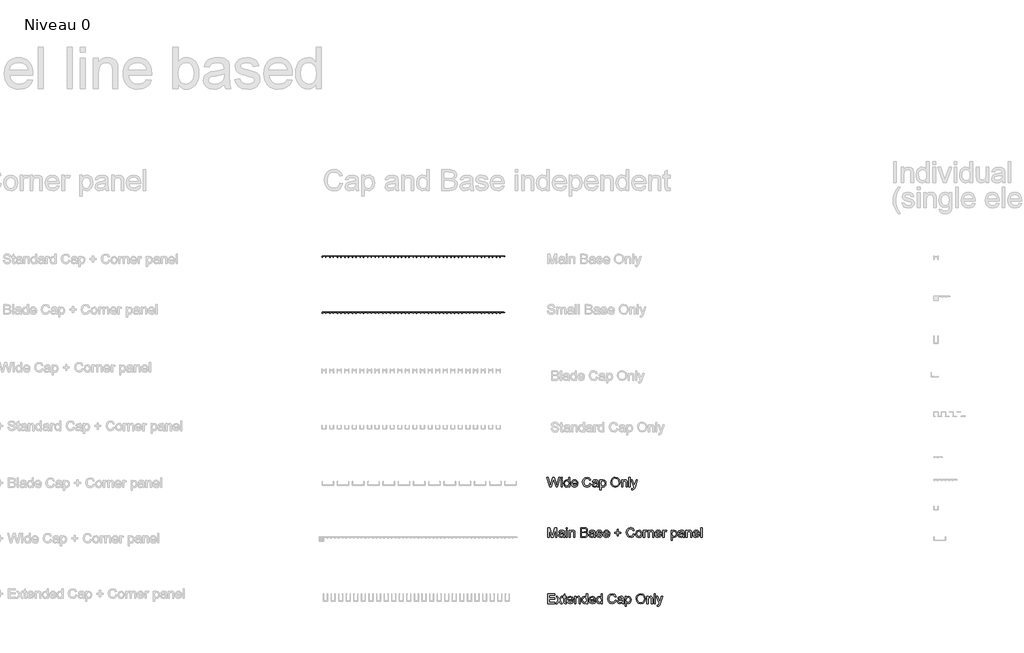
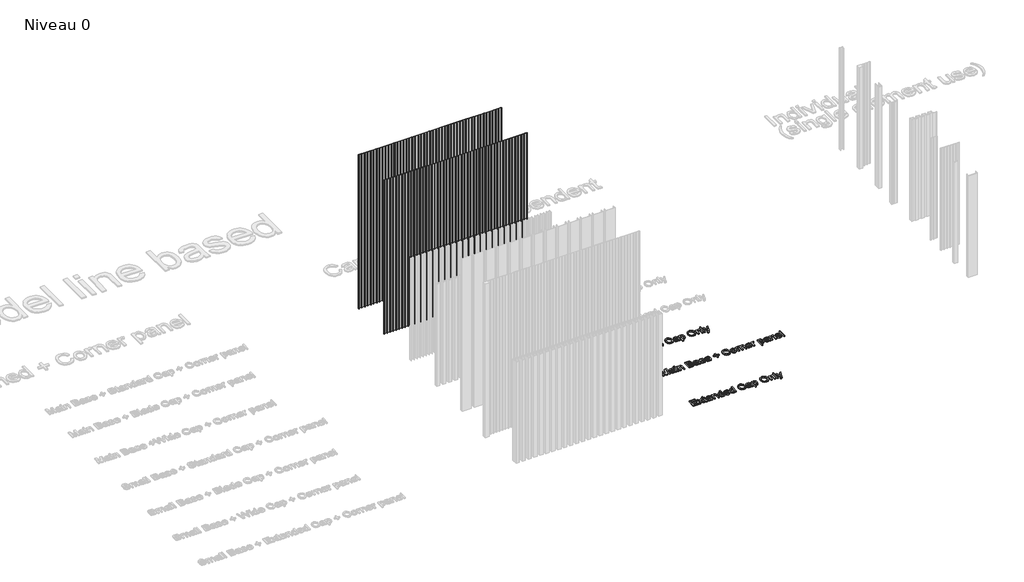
# One storey, part 21 of 25: 5 proxies.
"""IFC4 building model written with IfcOpenShell, lengths in millimetres."""

from ifc_helpers import new_model, si_unit, origin, origin_with_axes, place, context, project, spatial, polyline, outline, extrude, transform, mapped, element, save
from components import a_gen_line_main_base_only_a_gen_line_main_base_only_65072cad, a_gen_line_small_base_only_a_gen_line_small_base_only_1122f738

model = new_model("IFC4")

# Units and contexts
model_context = context("Model", 3, world=origin())
ifc_project = project(units=[si_unit("LENGTHUNIT", "METRE", prefix="MILLI")], contexts=[model_context])

# Site, building, storey
site = spatial("IfcSite", under=ifc_project)
building = spatial("IfcBuilding", under=site)
storey = spatial("IfcBuildingStorey", under=building, Name="Niveau 0", Elevation=0.0)

# Proxies
placement = place(None, origin())
element("IfcBuildingElementProxy", 1, Name="70mm Arial", ObjectType="70mm Arial", at=placement, inside=storey, context=model_context, shape_type="SweptSolid", body=[
    extrude(outline(polyline([(8421.1070911, 2891.0670977), (8401.930629, 2961.3865148), (8410.9952413, 2961.3865148), (8422.1199929, 2915.170726), (8425.5535582, 2900.9042622), (8429.227473, 2913.5226147), (8443.1677481, 2961.3865148), (8456.232464, 2961.3865148), (8466.3614816, 2926.6903376), (8473.8981574, 2900.9042622), (8477.2287158, 2914.7586982), (8488.4564742, 2961.3865148), (8497.5210866, 2961.3865148), (8478.3274566, 2891.0670977), (8468.9366556, 2891.0670977), (8452.07785, 2945.3174293), (8449.7258578, 2952.8884407), (8447.0820125, 2943.7723249), (8431.7168079, 2891.0670977), (8421.1070911, 2891.0670977)])), origin_with_axes(), (0.0, 0.0, 1.0), 10.0),
    extrude(outline(polyline([(8505.2122729, 2952.5965877), (8505.2122729, 2961.3865148), (8514.0022, 2961.3865148), (8514.0022, 2952.5965877), (8505.2122729, 2952.5965877)])), origin_with_axes(), (0.0, 0.0, 1.0), 10.0),
    extrude(outline(polyline([(8505.2122729, 2891.0670977), (8505.2122729, 2942.7079196), (8514.0022, 2942.7079196), (8514.0022, 2891.0670977), (8505.2122729, 2891.0670977)])), origin_with_axes(), (0.0, 0.0, 1.0), 10.0),
    extrude(outline(polyline([(8559.0505766, 2891.0670977), (8559.0505766, 2899.3591579), (8553.2349754, 2892.3160571), (8545.1961406, 2889.9683568), (8534.3117387, 2893.3675864), (8526.6205524, 2902.8528106), (8523.890868, 2916.8360052), (8526.4059546, 2930.8277837), (8533.9426304, 2940.4589344), (8545.161805, 2943.8066605), (8553.2650191, 2941.4117487), (8559.0505766, 2935.1884117), (8559.0505766, 2961.3865148), (8567.8405037, 2961.3865148), (8567.8405037, 2891.0670977), (8559.0505766, 2891.0670977)]), holes=[polyline([(8532.6807952, 2916.8703408), (8536.6465631, 2903.2648384), (8546.0030285, 2898.7582839), (8555.247903, 2903.0588245), (8559.0505766, 2916.2007956), (8555.1792317, 2930.4672594), (8545.6425041, 2935.0167334), (8536.3890457, 2930.6475216), (8532.6807952, 2916.8703408)])]), origin_with_axes(), (0.0, 0.0, 1.0), 10.0),
    extrude(outline(polyline([(8617.1808369, 2906.4494702), (8625.7990858, 2905.3507293), (8617.7387913, 2894.002796), (8602.725527, 2889.9683568), (8592.4119553, 2891.7087452), (8584.4761275, 2896.9299104), (8579.4159107, 2905.2927879), (8577.7291717, 2916.458313), (8579.4330785, 2927.9993843), (8584.5447988, 2936.6305091), (8592.3733277, 2942.0126227), (8602.2276601, 2943.8066605), (8611.7751176, 2942.0169146), (8619.4040704, 2936.6476769), (8624.4063459, 2928.03372), (8626.073771, 2916.5098165), (8626.0222675, 2914.1406564), (8586.5190989, 2914.1406564), (8591.5750238, 2902.7240519), (8602.8972053, 2898.7582839), (8611.5154542, 2900.5952414), (8617.1808369, 2906.4494702)]), holes=[polyline([(8586.5190989, 2922.9305836), (8617.2838439, 2922.9305836), (8613.7644394, 2930.896455), (8602.1933244, 2935.0167334), (8591.3690098, 2931.7290946), (8586.5190989, 2922.9305836)])]), origin_with_axes(), (0.0, 0.0, 1.0), 10.0),
    extrude(outline(polyline([(8712.8743015, 2916.063453), (8721.6642286, 2913.7972999), (8717.6083296, 2903.5545455), (8711.243358, 2896.0715191), (8702.8826265, 2891.4941474), (8692.839448, 2889.9683568), (8674.547129, 2894.5865021), (8663.8172374, 2907.9602389), (8660.1347387, 2926.7590089), (8664.2979366, 2945.8667997), (8676.1351529, 2958.2533865), (8693.0282941, 2962.4852557), (8710.6339001, 2957.0087191), (8720.5654877, 2941.5920109), (8711.7755606, 2939.4975361), (8704.5650735, 2950.3046828), (8692.6849376, 2953.6953286), (8678.9335086, 2949.9355746), (8671.1650671, 2939.8408926), (8668.9246658, 2926.7761767), (8671.577095, 2911.6341538), (8679.8348195, 2901.9600836), (8691.9638889, 2898.7582839), (8705.4148809, 2903.1189119), (8712.8743015, 2916.063453)])), origin_with_axes(), (0.0, 0.0, 1.0), 10.0),
    extrude(outline(polyline([(8765.6138643, 2897.6595431), (8757.0900385, 2891.7023073), (8747.6734857, 2889.9683568), (8734.9092067, 2894.1401386), (8730.4541558, 2904.8013589), (8732.1366028, 2911.7543286), (8736.5573181, 2916.8016695), (8742.7119838, 2919.6858644), (8750.317331, 2921.007787), (8765.5623608, 2924.0293245), (8765.6138643, 2925.9864567), (8763.1932008, 2932.4758951), (8753.476211, 2935.0167334), (8744.5832769, 2933.3257025), (8740.3428238, 2927.3255471), (8731.5528967, 2928.424288), (8735.3555702, 2937.0082013), (8743.0124208, 2942.0383744), (8754.6092876, 2943.8066605), (8765.2619239, 2942.2443883), (8771.279247, 2938.32154), (8773.9745958, 2932.3557203), (8774.4037915, 2924.664534), (8774.4037915, 2913.7286286), (8774.8501549, 2898.457847), (8776.6012732, 2891.0670977), (8767.8113461, 2891.0670977), (8765.6138643, 2897.6595431)]), holes=[polyline([(8765.6138643, 2915.2393973), (8751.4332397, 2912.5440486), (8743.8708121, 2911.119119), (8740.4458308, 2908.8014624), (8739.2440829, 2905.4194006), (8741.8621764, 2900.6639127), (8749.5447788, 2898.7582839), (8758.4377129, 2900.8613427), (8764.1717669, 2905.9516032), (8765.5623608, 2912.7500625), (8765.6138643, 2915.2393973)])]), origin_with_axes(), (0.0, 0.0, 1.0), 10.0),
    extrude(outline(polyline([(8786.4899413, 2871.2897616), (8786.4899413, 2942.7079196), (8795.2798684, 2942.7079196), (8795.2798684, 2934.0896708), (8801.357279, 2941.3774131), (8809.5635, 2943.8066605), (8820.7054194, 2940.4074309), (8827.9845778, 2930.8277837), (8830.439577, 2917.2823687), (8827.666973, 2903.0416566), (8819.6152624, 2893.3418347), (8808.4990948, 2889.9683568), (8800.8508281, 2892.225926), (8795.2798684, 2897.9342283), (8795.2798684, 2871.2897616), (8786.4899413, 2871.2897616)]), holes=[polyline([(8795.2798684, 2916.4754808), (8799.082542, 2903.0845762), (8808.3102487, 2898.7582839), (8817.7268015, 2903.2390866), (8821.6496498, 2917.1278582), (8817.8212245, 2930.5530985), (8808.670773, 2935.0167334), (8799.3400594, 2930.2698294), (8795.2798684, 2916.4754808)])]), origin_with_axes(), (0.0, 0.0, 1.0), 10.0),
    extrude(outline(polyline([(8865.5992855, 2925.2997436), (8867.9426938, 2940.8495024), (8874.9729188, 2952.6137555), (8885.7071022, 2960.0173806), (8899.1623862, 2962.4852557), (8916.6564014, 2957.8499426), (8928.5365372, 2944.9225692), (8932.6224799, 2926.1066315), (8928.3219394, 2907.0331763), (8916.1327826, 2894.2946491), (8899.1108827, 2889.9683568), (8881.4280215, 2894.7495965), (8869.6165569, 2907.7971446), (8865.5992855, 2925.2997436)]), holes=[polyline([(8874.3892127, 2925.2139045), (8876.1467689, 2914.2136197), (8881.4194376, 2905.8314284), (8889.3445355, 2900.5265701), (8899.0593792, 2898.7582839), (8908.9158576, 2900.5437379), (8916.8538314, 2905.9000997), (8922.0878724, 2914.5398084), (8923.8325528, 2926.1753028), (8920.845351, 2940.6821161), (8912.1155113, 2950.287515), (8899.2138897, 2953.6953286), (8889.7587093, 2952.0536552), (8881.7198745, 2947.1286349), (8876.2218781, 2938.3666055), (8874.3892127, 2925.2139045)])]), origin_with_axes(), (0.0, 0.0, 1.0), 10.0),
    extrude(outline(polyline([(8943.6098889, 2891.0670977), (8943.6098889, 2942.7079196), (8952.399816, 2942.7079196), (8952.399816, 2935.4974325), (8959.1210201, 2941.7293535), (8968.2972233, 2943.8066605), (8976.5978674, 2942.1327974), (8982.2632501, 2937.7378339), (8984.8985115, 2931.2741472), (8985.3620428, 2922.7760731), (8985.3620428, 2891.0670977), (8976.5721156, 2891.0670977), (8976.5721156, 2921.5914931), (8975.5592139, 2929.3685185), (8971.9797221, 2933.4802129), (8965.9452311, 2935.0167334), (8956.4085035, 2931.5660003), (8952.399816, 2918.4669487), (8952.399816, 2891.0670977), (8943.6098889, 2891.0670977)])), origin_with_axes(), (0.0, 0.0, 1.0), 10.0),
    extrude(outline(polyline([(8997.4481926, 2891.0670977), (8997.4481926, 2961.3865148), (9006.2381197, 2961.3865148), (9006.2381197, 2891.0670977), (8997.4481926, 2891.0670977)])), origin_with_axes(), (0.0, 0.0, 1.0), 10.0),
    extrude(outline(polyline([(9019.4230104, 2871.2897616), (9018.3242695, 2879.7535001), (9022.7879044, 2878.9809479), (9026.9596862, 2879.9509301), (9029.5176924, 2882.6548627), (9031.9211881, 2889.1271333), (9032.6079011, 2891.2559438), (9013.929306, 2942.7079196), (9023.1999322, 2942.7079196), (9033.1057681, 2914.0376495), (9036.5565012, 2902.5695414), (9040.0072343, 2912.698559), (9050.1877554, 2942.7079196), (9059.3897104, 2942.7079196), (9041.4149961, 2889.8310142), (9036.7453473, 2878.3629061), (9031.6465029, 2872.1653208), (9024.7965401, 2870.1910207), (9019.4230104, 2871.2897616)])), origin_with_axes(), (0.0, 0.0, 1.0), 10.0),
])
element("IfcBuildingElementProxy", 2, Name="70mm Arial", ObjectType="70mm Arial", at=placement, inside=storey, context=model_context, shape_type="SweptSolid", body=[
    extrude(outline(polyline([(8408.5230743, 2524.9606105), (8408.5230743, 2595.2800276), (8423.6479294, 2595.2800276), (8438.034568, 2545.7165127), (8440.9359307, 2535.3643134), (8444.0776429, 2546.574904), (8458.2239319, 2595.2800276), (8473.348787, 2595.2800276), (8473.348787, 2524.9606105), (8464.5588598, 2524.9606105), (8464.5588598, 2586.4901005), (8446.8931664, 2524.9606105), (8434.9786949, 2524.9606105), (8417.3130015, 2586.4901005), (8417.3130015, 2524.9606105), (8408.5230743, 2524.9606105)])), origin_with_axes(), (0.0, 0.0, 1.0), 10.0),
    extrude(outline(polyline([(8520.5946453, 2531.5530559), (8512.0708195, 2525.5958201), (8502.6542667, 2523.8618696), (8489.8899878, 2528.0336515), (8485.4349368, 2538.6948717), (8487.1173838, 2545.6478414), (8491.5380991, 2550.6951824), (8497.6927649, 2553.5793772), (8505.298112, 2554.9012999), (8520.5431419, 2557.9228373), (8520.5946453, 2559.8799695), (8518.1739818, 2566.3694079), (8508.456992, 2568.9102462), (8499.564058, 2567.2192153), (8495.3236048, 2561.21906), (8486.5336777, 2562.3178009), (8490.3363512, 2570.9017141), (8497.9932018, 2575.9318872), (8509.5900686, 2577.7001734), (8520.2427049, 2576.1379012), (8526.2600281, 2572.2150528), (8528.9553768, 2566.2492331), (8529.3845725, 2558.5580469), (8529.3845725, 2547.6221414), (8529.830936, 2532.3513598), (8531.5820543, 2524.9606105), (8522.7921271, 2524.9606105), (8520.5946453, 2531.5530559)]), holes=[polyline([(8520.5946453, 2549.1329102), (8506.4140207, 2546.4375614), (8498.8515932, 2545.0126318), (8495.4266118, 2542.6949753), (8494.2248639, 2539.3129134), (8496.8429575, 2534.5574255), (8504.5255598, 2532.6517968), (8513.4184939, 2534.7548555), (8519.1525479, 2539.8451161), (8520.5431419, 2546.6435753), (8520.5946453, 2549.1329102)])]), origin_with_axes(), (0.0, 0.0, 1.0), 10.0),
    extrude(outline(polyline([(8541.4707223, 2524.9606105), (8541.4707223, 2576.6014325), (8550.2606494, 2576.6014325), (8550.2606494, 2524.9606105), (8541.4707223, 2524.9606105)])), origin_with_axes(), (0.0, 0.0, 1.0), 10.0),
    extrude(outline(polyline([(8541.4707223, 2586.4901005), (8541.4707223, 2595.2800276), (8550.2606494, 2595.2800276), (8550.2606494, 2586.4901005), (8541.4707223, 2586.4901005)])), origin_with_axes(), (0.0, 0.0, 1.0), 10.0),
    extrude(outline(polyline([(8563.4455401, 2524.9606105), (8563.4455401, 2576.6014325), (8572.2354673, 2576.6014325), (8572.2354673, 2569.3909454), (8578.9566713, 2575.6228664), (8588.1328746, 2577.7001734), (8596.4335186, 2576.0263103), (8602.0989014, 2571.6313467), (8604.7341627, 2565.1676601), (8605.197694, 2556.669586), (8605.197694, 2524.9606105), (8596.4077669, 2524.9606105), (8596.4077669, 2555.485006), (8595.3948651, 2563.2620313), (8591.8153733, 2567.3737258), (8585.7808823, 2568.9102462), (8576.2441548, 2565.4595131), (8572.2354673, 2552.3604615), (8572.2354673, 2524.9606105), (8563.4455401, 2524.9606105)])), origin_with_axes(), (0.0, 0.0, 1.0), 10.0),
    extrude(outline(polyline([(8645.8511071, 2524.9606105), (8645.8511071, 2595.2800276), (8672.6844198, 2595.2800276), (8685.8263909, 2593.2113046), (8693.5862485, 2586.8506249), (8696.3931881, 2577.8546838), (8694.032612, 2569.6398789), (8686.8993801, 2563.4165418), (8695.5605485, 2556.8584321), (8698.5906699, 2545.9225266), (8696.5219468, 2536.4716382), (8691.3973506, 2529.7418502), (8683.7490839, 2526.1709423), (8672.4784059, 2524.9606105), (8645.8511071, 2524.9606105)]), holes=[polyline([(8654.6410342, 2566.7127644), (8670.6929519, 2566.7127644), (8680.0665852, 2567.4681488), (8685.7062161, 2570.7214519), (8687.603261, 2576.446922), (8685.8349748, 2582.1809761), (8680.770466, 2585.5716218), (8669.4740362, 2586.4901005), (8654.6410342, 2586.4901005), (8654.6410342, 2566.7127644)]), polyline([(8654.6410342, 2533.7505377), (8672.667252, 2533.7505377), (8679.191026, 2534.0938942), (8684.7104822, 2536.0081069), (8688.3672292, 2539.9137874), (8689.8007428, 2545.8366875), (8688.1182958, 2552.6694824), (8682.6675109, 2556.7468412), (8671.8088606, 2557.9228373), (8654.6410342, 2557.9228373), (8654.6410342, 2533.7505377)])]), origin_with_axes(), (0.0, 0.0, 1.0), 10.0),
    extrude(outline(polyline([(8742.5403056, 2531.5530559), (8734.0164798, 2525.5958201), (8724.5999269, 2523.8618696), (8711.835648, 2528.0336515), (8707.380597, 2538.6948717), (8709.063044, 2545.6478414), (8713.4837593, 2550.6951824), (8719.6384251, 2553.5793772), (8727.2437722, 2554.9012999), (8742.4888021, 2557.9228373), (8742.5403056, 2559.8799695), (8740.1196421, 2566.3694079), (8730.4026523, 2568.9102462), (8721.5097182, 2567.2192153), (8717.2692651, 2561.21906), (8708.4793379, 2562.3178009), (8712.2820115, 2570.9017141), (8719.9388621, 2575.9318872), (8731.5357288, 2577.7001734), (8742.1883651, 2576.1379012), (8748.2056883, 2572.2150528), (8750.9010371, 2566.2492331), (8751.3302327, 2558.5580469), (8751.3302327, 2547.6221414), (8751.7765962, 2532.3513598), (8753.5277145, 2524.9606105), (8744.7377874, 2524.9606105), (8742.5403056, 2531.5530559)]), holes=[polyline([(8742.5403056, 2549.1329102), (8728.3596809, 2546.4375614), (8720.7972534, 2545.0126318), (8717.372272, 2542.6949753), (8716.1705242, 2539.3129134), (8718.7886177, 2534.5574255), (8726.47122, 2532.6517968), (8735.3641541, 2534.7548555), (8741.0982082, 2539.8451161), (8742.4888021, 2546.6435753), (8742.5403056, 2549.1329102)])]), origin_with_axes(), (0.0, 0.0, 1.0), 10.0),
    extrude(outline(polyline([(8760.1201599, 2540.342983), (8768.910087, 2541.4417239), (8772.9788619, 2534.9179499), (8782.3009916, 2532.6517968), (8791.262597, 2534.7291038), (8794.1811275, 2539.6047665), (8791.2454292, 2543.5533666), (8782.1979847, 2546.0598692), (8768.9615905, 2550.3604098), (8763.1846169, 2555.381999), (8761.2189007, 2562.4723113), (8762.7983408, 2569.0218371), (8767.1074652, 2574.0262585), (8772.6955927, 2576.6271842), (8780.2580203, 2577.7001734), (8790.9535761, 2575.9748068), (8797.7520354, 2571.305158), (8800.7735729, 2563.4165418), (8791.9836457, 2562.3178009), (8788.6788391, 2567.1677118), (8780.9447333, 2568.9102462), (8772.5324984, 2567.2449671), (8770.0088279, 2563.3650383), (8771.0560653, 2560.8070321), (8774.3351201, 2558.8670678), (8781.9061316, 2556.9957747), (8794.8077532, 2552.8583285), (8800.7993246, 2548.1715119), (8802.9710547, 2540.5318291), (8800.4216324, 2532.1195942), (8793.0652188, 2526.0164319), (8782.1808168, 2523.8618696), (8766.8499478, 2528.0164836), (8760.1201599, 2540.342983)])), origin_with_axes(), (0.0, 0.0, 1.0), 10.0),
    extrude(outline(polyline([(8849.0151652, 2540.342983), (8857.633414, 2539.2442421), (8849.5731195, 2527.8963089), (8834.5598553, 2523.8618696), (8824.2462836, 2525.6022581), (8816.3104558, 2530.8234233), (8811.250239, 2539.1863007), (8809.5635, 2550.3518258), (8811.2674068, 2561.8928972), (8816.3791271, 2570.5240219), (8824.207656, 2575.9061355), (8834.0619883, 2577.7001734), (8843.6094458, 2575.9104275), (8851.2383987, 2570.5411897), (8856.2406741, 2561.9272328), (8857.9080993, 2550.4033293), (8857.8565958, 2548.0341693), (8818.3534271, 2548.0341693), (8823.409352, 2536.6175647), (8834.7315336, 2532.6517968), (8843.3497824, 2534.4887542), (8849.0151652, 2540.342983)]), holes=[polyline([(8818.3534271, 2556.8240964), (8849.1181721, 2556.8240964), (8845.5987677, 2564.7899679), (8834.0276527, 2568.9102462), (8823.2033381, 2565.6226075), (8818.3534271, 2556.8240964)])]), origin_with_axes(), (0.0, 0.0, 1.0), 10.0),
    extrude(outline(polyline([(8911.746403, 2535.9480195), (8911.746403, 2554.6266146), (8893.0678078, 2554.6266146), (8893.0678078, 2563.4165418), (8911.746403, 2563.4165418), (8911.746403, 2582.0951369), (8920.5363301, 2582.0951369), (8920.5363301, 2563.4165418), (8939.2149253, 2563.4165418), (8939.2149253, 2554.6266146), (8920.5363301, 2554.6266146), (8920.5363301, 2535.9480195), (8911.746403, 2535.9480195)])), origin_with_axes(), (0.0, 0.0, 1.0), 10.0),
    extrude(outline(polyline([(9029.3116785, 2549.9569658), (9038.1016056, 2547.6908127), (9034.0457066, 2537.4480583), (9027.6807349, 2529.9650319), (9019.3200035, 2525.3876602), (9009.276825, 2523.8618696), (8990.9845059, 2528.480015), (8980.2546144, 2541.8537518), (8976.5721156, 2560.6525217), (8980.7353135, 2579.7603125), (8992.5725299, 2592.1468993), (9009.4656711, 2596.3787685), (9027.0712771, 2590.9022319), (9037.0028647, 2575.4855238), (9028.2129376, 2573.3910489), (9021.0024505, 2584.1981957), (9009.1223146, 2587.5888414), (8995.3708856, 2583.8290874), (8987.6024441, 2573.7344055), (8985.3620428, 2560.6696895), (8988.014472, 2545.5276666), (8996.2721965, 2535.8535964), (9008.4012659, 2532.6517968), (9021.8522579, 2537.0124247), (9029.3116785, 2549.9569658)])), origin_with_axes(), (0.0, 0.0, 1.0), 10.0),
    extrude(outline(polyline([(9046.8915327, 2550.7810215), (9048.7928695, 2563.2319876), (9054.4968798, 2571.9832872), (9069.9822593, 2577.7001734), (9079.2164039, 2575.959785), (9086.5921314, 2570.7386197), (9091.4270205, 2562.4487056), (9093.0386502, 2551.5020702), (9090.188791, 2535.8621803), (9081.8881469, 2527.0121658), (9069.9822593, 2523.8618696), (9060.6365238, 2525.5958201), (9053.2693803, 2530.7976715), (9048.4859946, 2539.26141), (9046.8915327, 2550.7810215)]), holes=[polyline([(9055.6814599, 2550.7981893), (9059.7502347, 2537.1755191), (9069.9822593, 2532.6517968), (9080.1799482, 2537.2012708), (9084.2487231, 2551.0728746), (9080.1541965, 2564.386524), (9069.9822593, 2568.9102462), (9059.7502347, 2564.4036918), (9055.6814599, 2550.7981893)])]), origin_with_axes(), (0.0, 0.0, 1.0), 10.0),
    extrude(outline(polyline([(9102.9273182, 2524.9606105), (9102.9273182, 2576.6014325), (9110.6185045, 2576.6014325), (9110.6185045, 2568.9617497), (9116.0778733, 2576.0005586), (9121.5715778, 2577.7001734), (9130.3958405, 2574.9876568), (9127.4601422, 2567.1076245), (9121.2797247, 2568.9102462), (9116.309639, 2567.1762958), (9113.142175, 2562.3693044), (9111.7172454, 2552.1029441), (9111.7172454, 2524.9606105), (9102.9273182, 2524.9606105)])), origin_with_axes(), (0.0, 0.0, 1.0), 10.0),
    extrude(outline(polyline([(9135.889545, 2524.9606105), (9135.889545, 2576.6014325), (9144.6794721, 2576.6014325), (9144.6794721, 2569.3909454), (9151.4006762, 2575.6228664), (9160.5768794, 2577.7001734), (9168.8775235, 2576.0263103), (9174.5429062, 2571.6313467), (9177.1781676, 2565.1676601), (9177.6416989, 2556.669586), (9177.6416989, 2524.9606105), (9168.8517718, 2524.9606105), (9168.8517718, 2555.485006), (9167.83887, 2563.2620313), (9164.2593782, 2567.3737258), (9158.2248872, 2568.9102462), (9148.6881596, 2565.4595131), (9144.6794721, 2552.3604615), (9144.6794721, 2524.9606105), (9135.889545, 2524.9606105)])), origin_with_axes(), (0.0, 0.0, 1.0), 10.0),
    extrude(outline(polyline([(9225.8832912, 2540.342983), (9234.5015401, 2539.2442421), (9226.4412456, 2527.8963089), (9211.4279814, 2523.8618696), (9201.1144096, 2525.6022581), (9193.1785818, 2530.8234233), (9188.118365, 2539.1863007), (9186.4316261, 2550.3518258), (9188.1355328, 2561.8928972), (9193.2472532, 2570.5240219), (9201.075782, 2575.9061355), (9210.9301144, 2577.7001734), (9220.4775719, 2575.9104275), (9228.1065247, 2570.5411897), (9233.1088002, 2561.9272328), (9234.7762253, 2550.4033293), (9234.7247218, 2548.0341693), (9195.2215532, 2548.0341693), (9200.2774781, 2536.6175647), (9211.5996596, 2532.6517968), (9220.2179085, 2534.4887542), (9225.8832912, 2540.342983)]), holes=[polyline([(9195.2215532, 2556.8240964), (9225.9862982, 2556.8240964), (9222.4668938, 2564.7899679), (9210.8957787, 2568.9102462), (9200.0714642, 2565.6226075), (9195.2215532, 2556.8240964)])]), origin_with_axes(), (0.0, 0.0, 1.0), 10.0),
    extrude(outline(polyline([(9243.5661525, 2524.9606105), (9243.5661525, 2576.6014325), (9251.2573387, 2576.6014325), (9251.2573387, 2568.9617497), (9256.7167075, 2576.0005586), (9262.210412, 2577.7001734), (9271.0346748, 2574.9876568), (9268.0989764, 2567.1076245), (9261.9185589, 2568.9102462), (9256.9484732, 2567.1762958), (9253.7810092, 2562.3693044), (9252.3560796, 2552.1029441), (9252.3560796, 2524.9606105), (9243.5661525, 2524.9606105)])), origin_with_axes(), (0.0, 0.0, 1.0), 10.0),
    extrude(outline(polyline([(9303.9969015, 2505.1832745), (9303.9969015, 2576.6014325), (9312.7868287, 2576.6014325), (9312.7868287, 2567.9831836), (9318.8642392, 2575.2709259), (9327.0704603, 2577.7001734), (9338.2123796, 2574.3009437), (9345.491538, 2564.7212966), (9347.9465372, 2551.1758815), (9345.1739332, 2536.9351695), (9337.1222226, 2527.2353475), (9326.006055, 2523.8618696), (9318.3577883, 2526.1194388), (9312.7868287, 2531.8277411), (9312.7868287, 2505.1832745), (9303.9969015, 2505.1832745)]), holes=[polyline([(9312.7868287, 2550.3689937), (9316.5895022, 2536.978089), (9325.8172089, 2532.6517968), (9335.2337617, 2537.1325995), (9339.1566101, 2551.0213711), (9335.3281848, 2564.4466114), (9326.1777333, 2568.9102462), (9316.8470196, 2564.1633422), (9312.7868287, 2550.3689937)])]), origin_with_axes(), (0.0, 0.0, 1.0), 10.0),
    extrude(outline(polyline([(9390.797432, 2531.5530559), (9382.2736062, 2525.5958201), (9372.8570534, 2523.8618696), (9360.0927744, 2528.0336515), (9355.6377235, 2538.6948717), (9357.3201705, 2545.6478414), (9361.7408858, 2550.6951824), (9367.8955515, 2553.5793772), (9375.5008987, 2554.9012999), (9390.7459285, 2557.9228373), (9390.797432, 2559.8799695), (9388.3767685, 2566.3694079), (9378.6597787, 2568.9102462), (9369.7668446, 2567.2192153), (9365.5263915, 2561.21906), (9356.7364644, 2562.3178009), (9360.5391379, 2570.9017141), (9368.1959885, 2575.9318872), (9379.7928553, 2577.7001734), (9390.4454916, 2576.1379012), (9396.4628147, 2572.2150528), (9399.1581635, 2566.2492331), (9399.5873592, 2558.5580469), (9399.5873592, 2547.6221414), (9400.0337226, 2532.3513598), (9401.7848409, 2524.9606105), (9392.9949138, 2524.9606105), (9390.797432, 2531.5530559)]), holes=[polyline([(9390.797432, 2549.1329102), (9376.6168074, 2546.4375614), (9369.0543798, 2545.0126318), (9365.6293985, 2542.6949753), (9364.4276506, 2539.3129134), (9367.0457441, 2534.5574255), (9374.7283465, 2532.6517968), (9383.6212806, 2534.7548555), (9389.3553346, 2539.8451161), (9390.7459285, 2546.6435753), (9390.797432, 2549.1329102)])]), origin_with_axes(), (0.0, 0.0, 1.0), 10.0),
    extrude(outline(polyline([(9411.673509, 2524.9606105), (9411.673509, 2576.6014325), (9420.4634361, 2576.6014325), (9420.4634361, 2569.3909454), (9427.1846402, 2575.6228664), (9436.3608434, 2577.7001734), (9444.6614875, 2576.0263103), (9450.3268702, 2571.6313467), (9452.9621316, 2565.1676601), (9453.4256629, 2556.669586), (9453.4256629, 2524.9606105), (9444.6357357, 2524.9606105), (9444.6357357, 2555.485006), (9443.622834, 2563.2620313), (9440.0433422, 2567.3737258), (9434.0088512, 2568.9102462), (9424.4721236, 2565.4595131), (9420.4634361, 2552.3604615), (9420.4634361, 2524.9606105), (9411.673509, 2524.9606105)])), origin_with_axes(), (0.0, 0.0, 1.0), 10.0),
    extrude(outline(polyline([(9501.6672552, 2540.342983), (9510.285504, 2539.2442421), (9502.2252095, 2527.8963089), (9487.2119453, 2523.8618696), (9476.8983736, 2525.6022581), (9468.9625458, 2530.8234233), (9463.902329, 2539.1863007), (9462.21559, 2550.3518258), (9463.9194968, 2561.8928972), (9469.0312171, 2570.5240219), (9476.859746, 2575.9061355), (9486.7140783, 2577.7001734), (9496.2615358, 2575.9104275), (9503.8904887, 2570.5411897), (9508.8927641, 2561.9272328), (9510.5601893, 2550.4033293), (9510.5086858, 2548.0341693), (9471.0055171, 2548.0341693), (9476.061442, 2536.6175647), (9487.3836236, 2532.6517968), (9496.0018724, 2534.4887542), (9501.6672552, 2540.342983)]), holes=[polyline([(9471.0055171, 2556.8240964), (9501.7702621, 2556.8240964), (9498.2508577, 2564.7899679), (9486.6797427, 2568.9102462), (9475.8554281, 2565.6226075), (9471.0055171, 2556.8240964)])]), origin_with_axes(), (0.0, 0.0, 1.0), 10.0),
    extrude(outline(polyline([(9519.3501164, 2524.9606105), (9519.3501164, 2595.2800276), (9528.1400435, 2595.2800276), (9528.1400435, 2524.9606105), (9519.3501164, 2524.9606105)])), origin_with_axes(), (0.0, 0.0, 1.0), 10.0),
])
element("IfcBuildingElementProxy", 3, Name="70mm Arial", ObjectType="70mm Arial", at=placement, inside=storey, context=model_context, shape_type="SweptSolid", body=[
    extrude(outline(polyline([(8408.5230743, 2044.1296795), (8408.5230743, 2114.4490966), (8459.0651554, 2114.4490966), (8459.0651554, 2105.6591695), (8417.3130015, 2105.6591695), (8417.3130015, 2084.7830925), (8456.8676736, 2084.7830925), (8456.8676736, 2075.9931654), (8417.3130015, 2075.9931654), (8417.3130015, 2052.9196066), (8460.1638963, 2052.9196066), (8460.1638963, 2044.1296795), (8408.5230743, 2044.1296795)])), origin_with_axes(), (0.0, 0.0, 1.0), 10.0),
    extrude(outline(polyline([(8466.7563416, 2044.1296795), (8485.5379437, 2070.0874331), (8467.8550825, 2095.7705014), (8478.4304636, 2095.7705014), (8486.9628733, 2083.4096664), (8490.9458091, 2077.5726054), (8494.3965422, 2082.3452612), (8504.113532, 2095.7705014), (8514.688913, 2095.7705014), (8496.1133248, 2070.0874331), (8514.0022, 2044.1296795), (8503.4268189, 2044.1296795), (8492.6625917, 2059.7352337), (8490.6882917, 2062.5850929), (8477.3317227, 2044.1296795), (8466.7563416, 2044.1296795)])), origin_with_axes(), (0.0, 0.0, 1.0), 10.0),
    extrude(outline(polyline([(8540.3719814, 2051.4603414), (8541.4707223, 2043.8721621), (8534.8954448, 2043.0309386), (8527.5304472, 2044.4902039), (8523.8565324, 2048.3186292), (8522.7921271, 2058.2931363), (8522.7921271, 2086.9805743), (8516.1996818, 2086.9805743), (8516.1996818, 2095.7705014), (8522.7921271, 2095.7705014), (8522.7921271, 2108.3201826), (8531.5820543, 2113.4876983), (8531.5820543, 2095.7705014), (8540.3719814, 2095.7705014), (8540.3719814, 2086.9805743), (8531.5820543, 2086.9805743), (8531.5820543, 2058.5506537), (8532.0455856, 2054.0183475), (8533.5477704, 2052.4131558), (8536.5435561, 2051.8208658), (8540.3719814, 2051.4603414)])), origin_with_axes(), (0.0, 0.0, 1.0), 10.0),
    extrude(outline(polyline([(8585.317351, 2059.512052), (8593.9355999, 2058.4133111), (8585.8753054, 2047.0653778), (8570.8620412, 2043.0309386), (8560.5484694, 2044.771327), (8552.6126417, 2049.9924922), (8547.5524248, 2058.3553697), (8545.8656859, 2069.5208948), (8547.5695926, 2081.0619661), (8552.681313, 2089.6930909), (8560.5098418, 2095.0752045), (8570.3641742, 2096.8692423), (8579.9116317, 2095.0794964), (8587.5405846, 2089.7102587), (8592.54286, 2081.0963018), (8594.2102851, 2069.5723983), (8594.1587816, 2067.2032382), (8554.655613, 2067.2032382), (8559.7115379, 2055.7866337), (8571.0337194, 2051.8208658), (8579.6519683, 2053.6578232), (8585.317351, 2059.512052)]), holes=[polyline([(8554.655613, 2075.9931654), (8585.420358, 2075.9931654), (8581.9009536, 2083.9590369), (8570.3298385, 2088.0793152), (8559.505524, 2084.7916764), (8554.655613, 2075.9931654)])]), origin_with_axes(), (0.0, 0.0, 1.0), 10.0),
    extrude(outline(polyline([(8603.0002123, 2044.1296795), (8603.0002123, 2095.7705014), (8611.7901394, 2095.7705014), (8611.7901394, 2088.5600143), (8618.5113435, 2094.7919353), (8627.6875467, 2096.8692423), (8635.9881908, 2095.1953793), (8641.6535735, 2090.8004157), (8644.2888349, 2084.336729), (8644.7523662, 2075.8386549), (8644.7523662, 2044.1296795), (8635.962439, 2044.1296795), (8635.962439, 2074.6540749), (8634.9495373, 2082.4311003), (8631.3700455, 2086.5427947), (8625.3355545, 2088.0793152), (8615.7988269, 2084.6285821), (8611.7901394, 2071.5295305), (8611.7901394, 2044.1296795), (8603.0002123, 2044.1296795)])), origin_with_axes(), (0.0, 0.0, 1.0), 10.0),
    extrude(outline(polyline([(8688.7020019, 2044.1296795), (8688.7020019, 2052.4217397), (8682.8864007, 2045.3786389), (8674.8475659, 2043.0309386), (8663.963164, 2046.4301683), (8656.2719777, 2055.9153924), (8653.5422933, 2069.898587), (8656.0573799, 2083.8903655), (8663.5940557, 2093.5215162), (8674.8132303, 2096.8692423), (8682.9164443, 2094.4743305), (8688.7020019, 2088.2509935), (8688.7020019, 2114.4490966), (8697.491929, 2114.4490966), (8697.491929, 2044.1296795), (8688.7020019, 2044.1296795)]), holes=[polyline([(8662.3322204, 2069.9329227), (8666.2979884, 2056.3274202), (8675.6544538, 2051.8208658), (8684.8993283, 2056.1214063), (8688.7020019, 2069.2633774), (8684.830657, 2083.5298412), (8675.2939294, 2088.0793152), (8666.040471, 2083.7101034), (8662.3322204, 2069.9329227)])]), origin_with_axes(), (0.0, 0.0, 1.0), 10.0),
    extrude(outline(polyline([(8746.8322622, 2059.512052), (8755.4505111, 2058.4133111), (8747.3902165, 2047.0653778), (8732.3769523, 2043.0309386), (8722.0633806, 2044.771327), (8714.1275528, 2049.9924922), (8709.067336, 2058.3553697), (8707.380597, 2069.5208948), (8709.0845038, 2081.0619661), (8714.1962241, 2089.6930909), (8722.024753, 2095.0752045), (8731.8790854, 2096.8692423), (8741.4265428, 2095.0794964), (8749.0554957, 2089.7102587), (8754.0577711, 2081.0963018), (8755.7251963, 2069.5723983), (8755.6736928, 2067.2032382), (8716.1705242, 2067.2032382), (8721.2264491, 2055.7866337), (8732.5486306, 2051.8208658), (8741.1668795, 2053.6578232), (8746.8322622, 2059.512052)]), holes=[polyline([(8716.1705242, 2075.9931654), (8746.9352691, 2075.9931654), (8743.4158647, 2083.9590369), (8731.8447497, 2088.0793152), (8721.0204351, 2084.7916764), (8716.1705242, 2075.9931654)])]), origin_with_axes(), (0.0, 0.0, 1.0), 10.0),
    extrude(outline(polyline([(8796.3786093, 2044.1296795), (8796.3786093, 2052.4217397), (8790.5630081, 2045.3786389), (8782.5241734, 2043.0309386), (8771.6397714, 2046.4301683), (8763.9485852, 2055.9153924), (8761.2189007, 2069.898587), (8763.7339873, 2083.8903655), (8771.2706631, 2093.5215162), (8782.4898377, 2096.8692423), (8790.5930518, 2094.4743305), (8796.3786093, 2088.2509935), (8796.3786093, 2114.4490966), (8805.1685364, 2114.4490966), (8805.1685364, 2044.1296795), (8796.3786093, 2044.1296795)]), holes=[polyline([(8770.0088279, 2069.9329227), (8773.9745958, 2056.3274202), (8783.3310612, 2051.8208658), (8792.5759357, 2056.1214063), (8796.3786093, 2069.2633774), (8792.5072644, 2083.5298412), (8782.9705368, 2088.0793152), (8773.7170784, 2083.7101034), (8770.0088279, 2069.9329227)])]), origin_with_axes(), (0.0, 0.0, 1.0), 10.0),
    extrude(outline(polyline([(8896.3640305, 2069.1260348), (8905.1539576, 2066.8598817), (8901.0980586, 2056.6171273), (8894.733087, 2049.1341009), (8886.3723555, 2044.5567292), (8876.329177, 2043.0309386), (8858.036858, 2047.6490839), (8847.3069664, 2061.0228207), (8843.6244677, 2079.8215907), (8847.7876656, 2098.9293815), (8859.6248819, 2111.3159683), (8876.5180231, 2115.5478375), (8894.1236291, 2110.0713009), (8904.0552167, 2094.6545927), (8895.2652896, 2092.5601179), (8888.0548025, 2103.3672646), (8876.1746666, 2106.7579104), (8862.4232376, 2102.9981564), (8854.6547962, 2092.9034744), (8852.4143948, 2079.8387585), (8855.066824, 2064.6967356), (8863.3245485, 2055.0226654), (8875.4536179, 2051.8208658), (8888.9046099, 2056.1814937), (8896.3640305, 2069.1260348)])), origin_with_axes(), (0.0, 0.0, 1.0), 10.0),
    extrude(outline(polyline([(8949.1035933, 2050.7221249), (8940.5797675, 2044.7648891), (8931.1632147, 2043.0309386), (8918.3989357, 2047.2027204), (8913.9438848, 2057.8639407), (8915.6263318, 2064.8169104), (8920.0470471, 2069.8642513), (8926.2017129, 2072.7484462), (8933.80706, 2074.0703688), (8949.0520898, 2077.0919063), (8949.1035933, 2079.0490385), (8946.6829298, 2085.5384769), (8936.96594, 2088.0793152), (8928.0730059, 2086.3882843), (8923.8325528, 2080.388129), (8915.0426257, 2081.4868698), (8918.8452992, 2090.0707831), (8926.5021498, 2095.1009562), (8938.0990166, 2096.8692423), (8948.7516529, 2095.3069701), (8954.7689761, 2091.3841218), (8957.4643248, 2085.4183021), (8957.8935205, 2077.7271159), (8957.8935205, 2066.7912104), (8958.339884, 2051.5204288), (8960.0910022, 2044.1296795), (8951.3010751, 2044.1296795), (8949.1035933, 2050.7221249)]), holes=[polyline([(8949.1035933, 2068.3019791), (8934.9229687, 2065.6066304), (8927.3605411, 2064.1817008), (8923.9355598, 2061.8640442), (8922.7338119, 2058.4819824), (8925.3519054, 2053.7264945), (8933.0345078, 2051.8208658), (8941.9274419, 2053.9239245), (8947.6614959, 2059.014185), (8949.0520898, 2065.8126443), (8949.1035933, 2068.3019791)])]), origin_with_axes(), (0.0, 0.0, 1.0), 10.0),
    extrude(outline(polyline([(8969.9796703, 2024.3523434), (8969.9796703, 2095.7705014), (8978.7695974, 2095.7705014), (8978.7695974, 2087.1522526), (8984.847008, 2094.4399949), (8993.053229, 2096.8692423), (9004.1951484, 2093.4700127), (9011.4743068, 2083.8903655), (9013.929306, 2070.3449505), (9011.156702, 2056.1042385), (9003.1049914, 2046.4044165), (8991.9888238, 2043.0309386), (8984.3405571, 2045.2885078), (8978.7695974, 2050.9968101), (8978.7695974, 2024.3523434), (8969.9796703, 2024.3523434)]), holes=[polyline([(8978.7695974, 2069.5380626), (8982.572271, 2056.147158), (8991.7999777, 2051.8208658), (9001.2165305, 2056.3016685), (9005.1393788, 2070.19044), (9001.3109535, 2083.6156803), (8992.160502, 2088.0793152), (8982.8297884, 2083.3324112), (8978.7695974, 2069.5380626)])]), origin_with_axes(), (0.0, 0.0, 1.0), 10.0),
    extrude(outline(polyline([(9049.0890145, 2078.3623254), (9051.4324228, 2093.9120842), (9058.4626478, 2105.6763373), (9069.1968312, 2113.0799625), (9082.6521152, 2115.5478375), (9100.1461304, 2110.9125244), (9112.0262663, 2097.9851511), (9116.1122089, 2079.1692133), (9111.8116684, 2060.0957581), (9099.6225117, 2047.3572309), (9082.6006117, 2043.0309386), (9064.9177505, 2047.8121783), (9053.1062859, 2060.8597264), (9049.0890145, 2078.3623254)]), holes=[polyline([(9057.8789417, 2078.2764863), (9059.6364979, 2067.2762015), (9064.9091666, 2058.8940102), (9072.8342645, 2053.5891519), (9082.5491083, 2051.8208658), (9092.4055866, 2053.6063197), (9100.3435604, 2058.9626816), (9105.5776014, 2067.6023902), (9107.3222818, 2079.2378846), (9104.33508, 2093.7446979), (9095.6052403, 2103.3500968), (9082.7036187, 2106.7579104), (9073.2484383, 2105.116237), (9065.2096035, 2100.1912168), (9059.7116071, 2091.4291873), (9057.8789417, 2078.2764863)])]), origin_with_axes(), (0.0, 0.0, 1.0), 10.0),
    extrude(outline(polyline([(9127.0996179, 2044.1296795), (9127.0996179, 2095.7705014), (9135.889545, 2095.7705014), (9135.889545, 2088.5600143), (9142.6107491, 2094.7919353), (9151.7869523, 2096.8692423), (9160.0875964, 2095.1953793), (9165.7529791, 2090.8004157), (9168.3882405, 2084.336729), (9168.8517718, 2075.8386549), (9168.8517718, 2044.1296795), (9160.0618446, 2044.1296795), (9160.0618446, 2074.6540749), (9159.0489429, 2082.4311003), (9155.4694511, 2086.5427947), (9149.4349601, 2088.0793152), (9139.8982325, 2084.6285821), (9135.889545, 2071.5295305), (9135.889545, 2044.1296795), (9127.0996179, 2044.1296795)])), origin_with_axes(), (0.0, 0.0, 1.0), 10.0),
    extrude(outline(polyline([(9180.9379216, 2044.1296795), (9180.9379216, 2114.4490966), (9189.7278487, 2114.4490966), (9189.7278487, 2044.1296795), (9180.9379216, 2044.1296795)])), origin_with_axes(), (0.0, 0.0, 1.0), 10.0),
    extrude(outline(polyline([(9202.9127394, 2024.3523434), (9201.8139985, 2032.8160819), (9206.2776334, 2032.0435297), (9210.4494152, 2033.0135119), (9213.0074214, 2035.7174446), (9215.4109171, 2042.1897151), (9216.0976301, 2044.3185256), (9197.419035, 2095.7705014), (9206.6896613, 2095.7705014), (9216.5954971, 2067.1002313), (9220.0462302, 2055.6321232), (9223.4969633, 2065.7611408), (9233.6774844, 2095.7705014), (9242.8794394, 2095.7705014), (9224.9047251, 2042.893596), (9220.2350763, 2031.4254879), (9215.1362319, 2025.2279026), (9208.2862691, 2023.2536026), (9202.9127394, 2024.3523434)])), origin_with_axes(), (0.0, 0.0, 1.0), 10.0),
])
a_gen_line_main_base_only_a_gen_line_main_base_only_shape = a_gen_line_main_base_only_a_gen_line_main_base_only_65072cad(model_context)
element("IfcBuildingElementProxy", 4, Name="A_GEN_LINE_Main Base_Only : A_GEN_LINE_Main Base_Only", ObjectType="A_GEN_LINE_Main Base_Only : A_GEN_LINE_Main Base_Only", at=placement, inside=storey, context=model_context, shape_type="MappedRepresentation", body=[
    mapped(a_gen_line_main_base_only_a_gen_line_main_base_only_shape, transform((6768.6724018, 4570.5855038, 0.0), x_axis=(1.0, 0.0, 0.0), y_axis=(0.0, 1.0, 0.0), z_axis=(0.0, 0.0, 1.0))),
])
a_gen_line_small_base_only_a_gen_line_small_base_only_shape = a_gen_line_small_base_only_a_gen_line_small_base_only_1122f738(model_context)
element("IfcBuildingElementProxy", 5, Name="A_GEN_LINE_Small Base_Only : A_GEN_LINE_Small Base_Only", ObjectType="A_GEN_LINE_Small Base_Only : A_GEN_LINE_Small Base_Only", at=placement, inside=storey, context=model_context, shape_type="MappedRepresentation", body=[
    mapped(a_gen_line_small_base_only_a_gen_line_small_base_only_shape, transform((6768.6724018, 4162.0535735, 0.0), x_axis=(1.0, 0.0, 0.0), y_axis=(0.0, 1.0, 0.0), z_axis=(0.0, 0.0, 1.0))),
])

save(model, "model.ifc")
